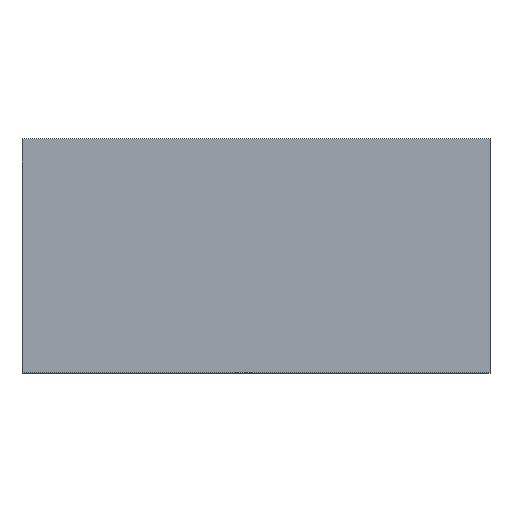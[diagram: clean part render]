
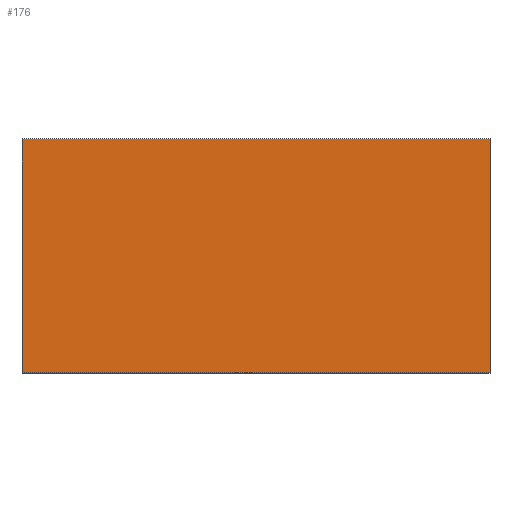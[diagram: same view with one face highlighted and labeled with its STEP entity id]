
A CAD part, top view. The second image highlights one B-rep face of the part: STEP entity #176.
In plain terms, the highlighted planar face has unit normal (0, 0, 1) as drawn and (0, 0, -1) by its records, which use the part's own axes.
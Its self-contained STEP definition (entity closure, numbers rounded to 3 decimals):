
#176=ADVANCED_FACE('',(#385),#387,.F.);
#385=FACE_BOUND('',#386,.T.);
#386=EDGE_LOOP('',(#712,#713,#714,#715));
#387=PLANE('',#388);
#388=AXIS2_PLACEMENT_3D('',#389,#390,#391);
#389=CARTESIAN_POINT('',(0.,0.,0.03));
#390=DIRECTION('',(0.,0.,1.));
#391=DIRECTION('',(1.,0.,0.));
#712=ORIENTED_EDGE('',*,*,#939,.F.);
#713=ORIENTED_EDGE('',*,*,#929,.F.);
#714=ORIENTED_EDGE('',*,*,#933,.F.);
#715=ORIENTED_EDGE('',*,*,#936,.F.);
#929=EDGE_CURVE('',#1079,#1080,#1081,.F.);
#933=EDGE_CURVE('',#1087,#1079,#1088,.F.);
#936=EDGE_CURVE('',#1092,#1087,#1093,.F.);
#939=EDGE_CURVE('',#1080,#1092,#1097,.F.);
#1079=VERTEX_POINT('',#1210);
#1080=VERTEX_POINT('',#1211);
#1081=LINE('',#1212,#1213);
#1087=VERTEX_POINT('',#1226);
#1088=LINE('',#1227,#1228);
#1092=VERTEX_POINT('',#1237);
#1093=LINE('',#1238,#1239);
#1097=LINE('',#1248,#1249);
#1210=CARTESIAN_POINT('',(-0.8,-0.4,0.03));
#1211=CARTESIAN_POINT('',(0.8,-0.4,0.03));
#1212=CARTESIAN_POINT('',(0.8,-0.4,0.03));
#1213=VECTOR('',#1214,1.);
#1214=DIRECTION('',(-1.,0.,0.));
#1226=CARTESIAN_POINT('',(-0.8,0.4,0.03));
#1227=CARTESIAN_POINT('',(-0.8,-0.4,0.03));
#1228=VECTOR('',#1229,1.);
#1229=DIRECTION('',(0.,1.,0.));
#1237=CARTESIAN_POINT('',(0.8,0.4,0.03));
#1238=CARTESIAN_POINT('',(-0.8,0.4,0.03));
#1239=VECTOR('',#1240,1.);
#1240=DIRECTION('',(1.,0.,0.));
#1248=CARTESIAN_POINT('',(0.8,0.4,0.03));
#1249=VECTOR('',#1250,1.);
#1250=DIRECTION('',(0.,-1.,0.));
